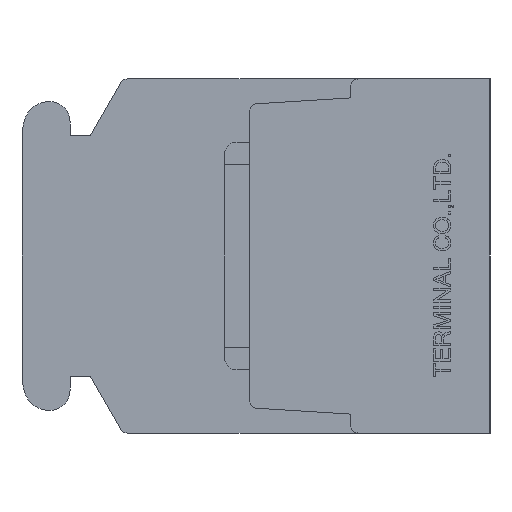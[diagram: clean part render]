
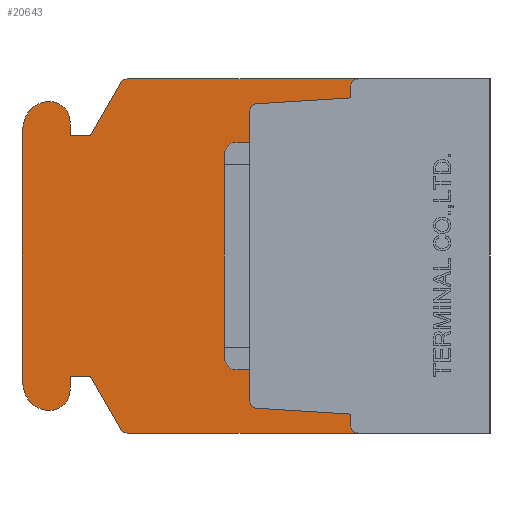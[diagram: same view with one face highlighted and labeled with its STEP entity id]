
A CAD part, left-side view. The second image highlights one B-rep face of the part: STEP entity #20643.
In plain terms, the highlighted planar face has unit normal (-1, 0, 0).
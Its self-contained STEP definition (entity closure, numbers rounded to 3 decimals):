
#404=CIRCLE('',#21072,0.3);
#405=CIRCLE('',#21076,0.3);
#406=CIRCLE('',#21078,0.3);
#407=CIRCLE('',#21082,0.3);
#757=CIRCLE('',#22117,0.3);
#758=CIRCLE('',#22118,0.8);
#759=CIRCLE('',#22119,1.);
#760=CIRCLE('',#22120,2.);
#761=CIRCLE('',#22121,2.);
#762=CIRCLE('',#22122,1.);
#763=CIRCLE('',#22123,0.8);
#764=CIRCLE('',#22124,0.3);
#1148=VERTEX_POINT('',#26837);
#1149=VERTEX_POINT('',#26838);
#1502=VERTEX_POINT('',#28359);
#1503=VERTEX_POINT('',#28363);
#1504=VERTEX_POINT('',#28367);
#1505=VERTEX_POINT('',#28371);
#1506=VERTEX_POINT('',#28375);
#1507=VERTEX_POINT('',#28376);
#1508=VERTEX_POINT('',#28381);
#1509=VERTEX_POINT('',#28385);
#2584=VERTEX_POINT('',#31535);
#2603=VERTEX_POINT('',#31610);
#2813=VERTEX_POINT('',#32344);
#2814=VERTEX_POINT('',#32346);
#2815=VERTEX_POINT('',#32348);
#2816=VERTEX_POINT('',#32350);
#2817=VERTEX_POINT('',#32352);
#2818=VERTEX_POINT('',#32354);
#2819=VERTEX_POINT('',#32356);
#2820=VERTEX_POINT('',#32358);
#2821=VERTEX_POINT('',#32360);
#2822=VERTEX_POINT('',#32362);
#2823=VERTEX_POINT('',#32364);
#2824=VERTEX_POINT('',#32366);
#2825=VERTEX_POINT('',#32368);
#2826=VERTEX_POINT('',#32370);
#2827=VERTEX_POINT('',#32372);
#2828=VERTEX_POINT('',#32374);
#3254=VECTOR('',#22396,1.);
#3663=VECTOR('',#22952,1.);
#3665=VECTOR('',#22955,1.);
#3670=VECTOR('',#22969,1.);
#3672=VECTOR('',#22972,1.);
#4750=VECTOR('',#25325,1.);
#4779=VECTOR('',#25396,1.);
#5051=VECTOR('',#25960,1.);
#5052=VECTOR('',#25961,1.);
#5053=VECTOR('',#25962,1.);
#5054=VECTOR('',#25965,1.);
#5055=VECTOR('',#25970,1.);
#5056=VECTOR('',#25975,1.);
#5057=VECTOR('',#25978,1.);
#5058=VECTOR('',#25979,1.);
#5059=VECTOR('',#25980,1.);
#5560=LINE('',#26836,#3254);
#5969=LINE('',#28362,#3663);
#5971=LINE('',#28366,#3665);
#5976=LINE('',#28380,#3670);
#5978=LINE('',#28384,#3672);
#7056=LINE('',#31536,#4750);
#7085=LINE('',#31609,#4779);
#7357=LINE('',#32345,#5051);
#7358=LINE('',#32347,#5052);
#7359=LINE('',#32349,#5053);
#7360=LINE('',#32353,#5054);
#7361=LINE('',#32359,#5055);
#7362=LINE('',#32365,#5056);
#7363=LINE('',#32369,#5057);
#7364=LINE('',#32371,#5058);
#7365=LINE('',#32373,#5059);
#7866=EDGE_CURVE('',#1148,#1149,#5560,.T.);
#8384=EDGE_CURVE('',#1502,#1148,#404,.T.);
#8386=EDGE_CURVE('',#1503,#1502,#5969,.T.);
#8388=EDGE_CURVE('',#1504,#1503,#5971,.T.);
#8390=EDGE_CURVE('',#1505,#1504,#405,.T.);
#8392=EDGE_CURVE('',#1506,#1507,#406,.T.);
#8395=EDGE_CURVE('',#1508,#1506,#5976,.T.);
#8397=EDGE_CURVE('',#1509,#1508,#5978,.T.);
#8399=EDGE_CURVE('',#1149,#1509,#407,.T.);
#9909=EDGE_CURVE('',#2584,#1507,#7056,.T.);
#9946=EDGE_CURVE('',#1505,#2603,#7085,.T.);
#10352=EDGE_CURVE('',#2813,#2584,#757,.T.);
#10353=EDGE_CURVE('',#2814,#2813,#7357,.T.);
#10354=EDGE_CURVE('',#2815,#2814,#7358,.T.);
#10355=EDGE_CURVE('',#2816,#2815,#7359,.T.);
#10356=EDGE_CURVE('',#2817,#2816,#758,.T.);
#10357=EDGE_CURVE('',#2818,#2817,#7360,.T.);
#10358=EDGE_CURVE('',#2819,#2818,#759,.T.);
#10359=EDGE_CURVE('',#2820,#2819,#760,.T.);
#10360=EDGE_CURVE('',#2821,#2820,#7361,.T.);
#10361=EDGE_CURVE('',#2822,#2821,#761,.T.);
#10362=EDGE_CURVE('',#2823,#2822,#762,.T.);
#10363=EDGE_CURVE('',#2824,#2823,#7362,.T.);
#10364=EDGE_CURVE('',#2825,#2824,#763,.T.);
#10365=EDGE_CURVE('',#2826,#2825,#7363,.T.);
#10366=EDGE_CURVE('',#2827,#2826,#7364,.T.);
#10367=EDGE_CURVE('',#2828,#2827,#7365,.T.);
#10368=EDGE_CURVE('',#2603,#2828,#764,.T.);
#15926=ORIENTED_EDGE('',*,*,#8392,.T.);
#15927=ORIENTED_EDGE('',*,*,#9909,.F.);
#15928=ORIENTED_EDGE('',*,*,#10352,.F.);
#15929=ORIENTED_EDGE('',*,*,#10353,.F.);
#15930=ORIENTED_EDGE('',*,*,#10354,.F.);
#15931=ORIENTED_EDGE('',*,*,#10355,.F.);
#15932=ORIENTED_EDGE('',*,*,#10356,.F.);
#15933=ORIENTED_EDGE('',*,*,#10357,.F.);
#15934=ORIENTED_EDGE('',*,*,#10358,.F.);
#15935=ORIENTED_EDGE('',*,*,#10359,.F.);
#15936=ORIENTED_EDGE('',*,*,#10360,.F.);
#15937=ORIENTED_EDGE('',*,*,#10361,.F.);
#15938=ORIENTED_EDGE('',*,*,#10362,.F.);
#15939=ORIENTED_EDGE('',*,*,#10363,.F.);
#15940=ORIENTED_EDGE('',*,*,#10364,.F.);
#15941=ORIENTED_EDGE('',*,*,#10365,.F.);
#15942=ORIENTED_EDGE('',*,*,#10366,.F.);
#15943=ORIENTED_EDGE('',*,*,#10367,.F.);
#15944=ORIENTED_EDGE('',*,*,#10368,.F.);
#15945=ORIENTED_EDGE('',*,*,#9946,.F.);
#15946=ORIENTED_EDGE('',*,*,#8390,.T.);
#15947=ORIENTED_EDGE('',*,*,#8388,.T.);
#15948=ORIENTED_EDGE('',*,*,#8386,.T.);
#15949=ORIENTED_EDGE('',*,*,#8384,.T.);
#15950=ORIENTED_EDGE('',*,*,#7866,.T.);
#15951=ORIENTED_EDGE('',*,*,#8399,.T.);
#15952=ORIENTED_EDGE('',*,*,#8397,.T.);
#15953=ORIENTED_EDGE('',*,*,#8395,.T.);
#18243=EDGE_LOOP('',(#15926,#15927,#15928,#15929,#15930,#15931,#15932,#15933,
#15934,#15935,#15936,#15937,#15938,#15939,#15940,#15941,#15942,#15943,#15944,
#15945,#15946,#15947,#15948,#15949,#15950,#15951,#15952,#15953));
#19479=FACE_BOUND('',#18243,.T.);
#20643=ADVANCED_FACE('',(#19479),#34780,.F.);
#21072=AXIS2_PLACEMENT_3D('',#28358,#22948,#22949);
#21076=AXIS2_PLACEMENT_3D('',#28370,#22959,#22960);
#21078=AXIS2_PLACEMENT_3D('',#28374,#22964,#22965);
#21082=AXIS2_PLACEMENT_3D('',#28388,#22976,#22977);
#22116=AXIS2_PLACEMENT_3D('',#32342,#25957,$);
#22117=AXIS2_PLACEMENT_3D('',#32343,#25958,#25959);
#22118=AXIS2_PLACEMENT_3D('',#32351,#25963,#25964);
#22119=AXIS2_PLACEMENT_3D('',#32355,#25966,#25967);
#22120=AXIS2_PLACEMENT_3D('',#32357,#25968,#25969);
#22121=AXIS2_PLACEMENT_3D('',#32361,#25971,#25972);
#22122=AXIS2_PLACEMENT_3D('',#32363,#25973,#25974);
#22123=AXIS2_PLACEMENT_3D('',#32367,#25976,#25977);
#22124=AXIS2_PLACEMENT_3D('',#32375,#25981,#25982);
#22396=DIRECTION('',(0.,0.,1.));
#22948=DIRECTION('',(1.,0.,0.));
#22949=DIRECTION('',(0.,0.,-0.3));
#22952=DIRECTION('',(0.,0.998,0.062));
#22955=DIRECTION('',(0.,0.,1.));
#22959=DIRECTION('',(1.,0.,0.));
#22960=DIRECTION('',(0.,0.,-0.3));
#22964=DIRECTION('',(1.,0.,0.));
#22965=DIRECTION('',(0.,0.,-0.3));
#22969=DIRECTION('',(0.,0.,1.));
#22972=DIRECTION('',(0.,-0.998,0.062));
#22976=DIRECTION('',(1.,0.,0.));
#22977=DIRECTION('',(0.,0.,-0.3));
#25325=DIRECTION('',(0.,-1.,0.));
#25396=DIRECTION('',(0.,1.,0.));
#25957=DIRECTION('',(1.,0.,0.));
#25958=DIRECTION('',(1.,0.,0.));
#25959=DIRECTION('',(0.,0.,-0.3));
#25960=DIRECTION('',(0.,-0.5,0.866));
#25961=DIRECTION('',(0.,-1.,0.));
#25962=DIRECTION('',(0.,0.,-1.));
#25963=DIRECTION('',(1.,0.,0.));
#25964=DIRECTION('',(0.,0.,-0.8));
#25965=DIRECTION('',(0.,-1.,0.));
#25966=DIRECTION('',(1.,0.,0.));
#25967=DIRECTION('',(0.,0.,-1.));
#25968=DIRECTION('',(1.,0.,0.));
#25969=DIRECTION('',(0.,0.,-2.));
#25970=DIRECTION('',(0.,0.,1.));
#25971=DIRECTION('',(1.,0.,0.));
#25972=DIRECTION('',(0.,0.,-2.));
#25973=DIRECTION('',(1.,0.,0.));
#25974=DIRECTION('',(0.,0.,-1.));
#25975=DIRECTION('',(0.,1.,0.));
#25976=DIRECTION('',(1.,0.,0.));
#25977=DIRECTION('',(0.,0.,-0.8));
#25978=DIRECTION('',(0.,0.,-1.));
#25979=DIRECTION('',(0.,1.,0.));
#25980=DIRECTION('',(0.,0.5,0.866));
#25981=DIRECTION('',(1.,0.,0.));
#25982=DIRECTION('',(0.,0.,-0.3));
#26836=CARTESIAN_POINT('',(8.15,9.5,0.));
#26837=CARTESIAN_POINT('',(8.15,9.5,-5.718));
#26838=CARTESIAN_POINT('',(8.15,9.5,5.718));
#28358=CARTESIAN_POINT('',(8.15,9.2,-5.718));
#28359=CARTESIAN_POINT('',(8.15,9.219,-6.018));
#28362=CARTESIAN_POINT('',(8.15,8.522,-6.061));
#28363=CARTESIAN_POINT('',(8.15,5.5,-6.25));
#28366=CARTESIAN_POINT('',(8.15,5.5,-3.237));
#28367=CARTESIAN_POINT('',(8.15,5.5,-6.7));
#28370=CARTESIAN_POINT('',(8.15,5.2,-6.7));
#28371=CARTESIAN_POINT('',(8.15,5.2,-7.));
#28374=CARTESIAN_POINT('',(8.15,5.2,6.7));
#28375=CARTESIAN_POINT('',(8.15,5.5,6.7));
#28376=CARTESIAN_POINT('',(8.15,5.2,7.));
#28380=CARTESIAN_POINT('',(8.15,5.5,3.238));
#28381=CARTESIAN_POINT('',(8.15,5.5,6.25));
#28384=CARTESIAN_POINT('',(8.15,8.522,6.061));
#28385=CARTESIAN_POINT('',(8.15,9.219,6.018));
#28388=CARTESIAN_POINT('',(8.15,9.2,5.718));
#31535=CARTESIAN_POINT('',(8.15,14.327,7.));
#31536=CARTESIAN_POINT('',(8.15,14.327,7.));
#31609=CARTESIAN_POINT('',(8.15,0.,-7.));
#31610=CARTESIAN_POINT('',(8.15,14.327,-7.));
#32342=CARTESIAN_POINT('',(8.15,9.311,0.));
#32343=CARTESIAN_POINT('',(8.15,14.327,6.7));
#32344=CARTESIAN_POINT('',(8.15,14.587,6.85));
#32345=CARTESIAN_POINT('',(8.15,15.8,4.75));
#32346=CARTESIAN_POINT('',(8.15,15.8,4.75));
#32347=CARTESIAN_POINT('',(8.15,16.6,4.75));
#32348=CARTESIAN_POINT('',(8.15,16.6,4.75));
#32349=CARTESIAN_POINT('',(8.15,16.6,5.3));
#32350=CARTESIAN_POINT('',(8.15,16.6,5.3));
#32351=CARTESIAN_POINT('',(8.15,17.4,5.3));
#32352=CARTESIAN_POINT('',(8.15,17.4,6.1));
#32353=CARTESIAN_POINT('',(8.15,17.437,6.1));
#32354=CARTESIAN_POINT('',(8.15,17.437,6.1));
#32355=CARTESIAN_POINT('',(8.15,17.437,5.1));
#32356=CARTESIAN_POINT('',(8.15,18.373,5.45));
#32357=CARTESIAN_POINT('',(8.15,16.5,4.75));
#32358=CARTESIAN_POINT('',(8.15,18.5,4.75));
#32359=CARTESIAN_POINT('',(8.15,18.5,-4.75));
#32360=CARTESIAN_POINT('',(8.15,18.5,-4.75));
#32361=CARTESIAN_POINT('',(8.15,16.5,-4.75));
#32362=CARTESIAN_POINT('',(8.15,18.373,-5.45));
#32363=CARTESIAN_POINT('',(8.15,17.437,-5.1));
#32364=CARTESIAN_POINT('',(8.15,17.437,-6.1));
#32365=CARTESIAN_POINT('',(8.15,17.4,-6.1));
#32366=CARTESIAN_POINT('',(8.15,17.4,-6.1));
#32367=CARTESIAN_POINT('',(8.15,17.4,-5.3));
#32368=CARTESIAN_POINT('',(8.15,16.6,-5.3));
#32369=CARTESIAN_POINT('',(8.15,16.6,-4.75));
#32370=CARTESIAN_POINT('',(8.15,16.6,-4.75));
#32371=CARTESIAN_POINT('',(8.15,15.8,-4.75));
#32372=CARTESIAN_POINT('',(8.15,15.8,-4.75));
#32373=CARTESIAN_POINT('',(8.15,14.587,-6.85));
#32374=CARTESIAN_POINT('',(8.15,14.587,-6.85));
#32375=CARTESIAN_POINT('',(8.15,14.327,-6.7));
#34780=PLANE('',#22116);
